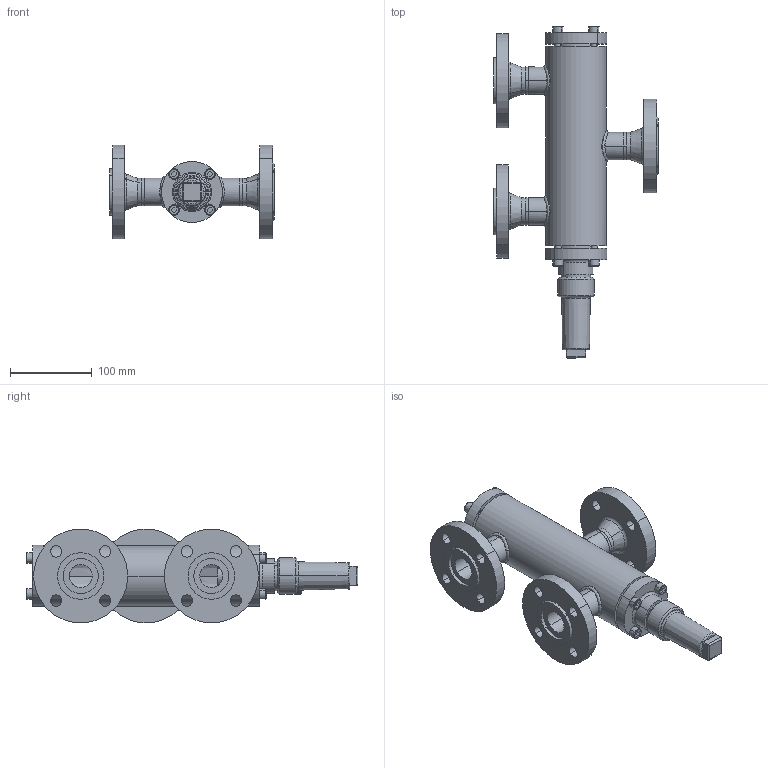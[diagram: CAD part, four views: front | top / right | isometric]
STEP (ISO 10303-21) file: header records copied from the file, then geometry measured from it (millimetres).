
FILE_DESCRIPTION (( 'STEP AP214' ), '1' );
FILE_NAME ('WVB23020D12-DN025_DIN-FL-N-F_PS40.STEP', '2010-09-08T08:39:13', ( 'Eckhard Grams' ), ( 'AWP Kälte Klima Armaturen GmbH' ), 'SwSTEP 2.0', 'SolidWorks 2002296', '' );
FILE_SCHEMA (( 'AUTOMOTIVE_DESIGN' ));
Length unit declared in the file: millimetre
Products named in the file (17): WVB23020D12-DN025_DIN-FL-N-F_PS40; WVB-R23000E13_Deck+Schr-DN25-32_Standard; Deckel23000E13-DN25-32_Standard; Geh,kpl24020E12-DN25_DIN-FL-N-F_PS40_Standard; Geh,kpl24000E12_DN25_R1_PS40_Standard; Gehäuse24000E12-DN25_R1_PS40_Standard; Rohrstutzen-24000E12-DN25_R1_Standard; Schw-24000E12-DN25_Standard; Flansch-DIN2635-Feder_PS40_DIN-Flansch-DN025_PS40-Feder; Flansch-DIN2635-Nut_PS40_DIN-Flansch-DN025_PS40-Nut; beadC4020-12-2_Standard; beadC4020-12-3_Standard; beadC4020-12-1_Standard; AVB16300E13_Deck+Schr-DN25-32_Standard; Deckel16300E13-DN25-32_Standard; Zylinderschraube-DIN912_M 8x  25; Kappe 16402-13_DN10-32 (M36x2)_Standard
Assembly tree (28 placements, depth 4):
  WVB23020D12-DN025_DIN-FL-N-F_PS40
    WVB-R23000E13_Deck+Schr-DN25-32_Standard
      Zylinderschraube-DIN912_M 8x  25  x4
      Deckel23000E13-DN25-32_Standard
    AVB16300E13_Deck+Schr-DN25-32_Standard
      Zylinderschraube-DIN912_M 8x  25  x4
      Deckel16300E13-DN25-32_Standard
    Kappe 16402-13_DN10-32 (M36x2)_Standard
    Geh,kpl24020E12-DN25_DIN-FL-N-F_PS40_Standard
      Flansch-DIN2635-Feder_PS40_DIN-Flansch-DN025_PS40-Feder  x2
      Flansch-DIN2635-Nut_PS40_DIN-Flansch-DN025_PS40-Nut
      beadC4020-12-1_Standard
      beadC4020-12-3_Standard
      Geh,kpl24000E12_DN25_R1_PS40_Standard
        Rohrstutzen-24000E12-DN25_R1_Standard  x3
        Schw-24000E12-DN25_Standard  x3
        Gehäuse24000E12-DN25_R1_PS40_Standard
      beadC4020-12-2_Standard
Bounding box: 202 x 406.5 x 114.56 mm (x, y, z)
Volume: 1411385.4 mm3; surface area: 285274.7 mm2
Topology: 24 solids, 24 shells, 509 faces, 1173 edges, 739 vertices
Faces by surface type: cylinder 222, plane 145, cone 65, torus 43, bspline 34
Entity records: 27156 total; most frequent: CARTESIAN_POINT 18766, DIRECTION 1593, ORIENTED_EDGE 1502, EDGE_CURVE 751, AXIS2_PLACEMENT_3D 679, VERTEX_POINT 473, EDGE_LOOP 388, CIRCLE 354
